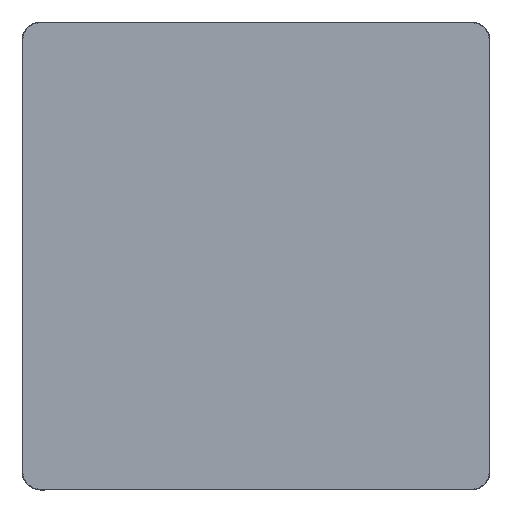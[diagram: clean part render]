
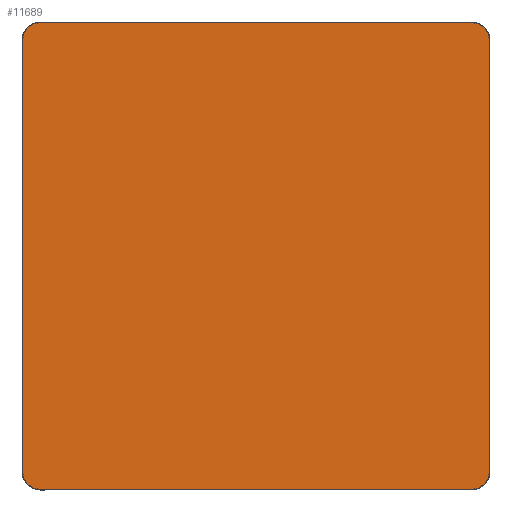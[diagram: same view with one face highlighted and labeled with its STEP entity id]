
A CAD part, top view. The second image highlights one B-rep face of the part: STEP entity #11689.
In plain terms, the highlighted planar face has unit normal (0, 0, 1).
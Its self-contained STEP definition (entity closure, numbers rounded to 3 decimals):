
#11614=CARTESIAN_POINT('',(0.,0.,20.));
#11615=DIRECTION('',(1.,0.,0.));
#11616=DIRECTION('',(0.,0.,1.));
#11617=AXIS2_PLACEMENT_3D('',#11614,#11616,#11615);
#11618=PLANE('',#11617);
#11619=CARTESIAN_POINT('',(-415.,-448.5,20.));
#11620=VERTEX_POINT('',#11619);
#11621=CARTESIAN_POINT('',(415.,-448.5,20.));
#11622=VERTEX_POINT('',#11621);
#11623=CARTESIAN_POINT('',(-415.,-448.5,20.));
#11624=DIRECTION('',(1.,0.,0.));
#11625=VECTOR('',#11624,830.);
#11626=LINE('',#11623,#11625);
#11627=EDGE_CURVE('',#11620,#11622,#11626,.T.);
#11628=ORIENTED_EDGE('E105',*,*,#11627,.T.);
#11629=CARTESIAN_POINT('',(448.5,-415.,20.));
#11630=VERTEX_POINT('',#11629);
#11631=CARTESIAN_POINT('',(415.,-415.,20.));
#11632=DIRECTION('',(0.,-1.,0.));
#11633=DIRECTION('',(0.,0.,1.));
#11634=AXIS2_PLACEMENT_3D('',#11631,#11633,#11632);
#11635=CIRCLE('',#11634,33.5);
#11636=EDGE_CURVE('',#11622,#11630,#11635,.T.);
#11637=ORIENTED_EDGE('E107',*,*,#11636,.T.);
#11638=CARTESIAN_POINT('',(448.5,415.,20.));
#11639=VERTEX_POINT('',#11638);
#11640=CARTESIAN_POINT('',(448.5,-415.,20.));
#11641=DIRECTION('',(0.,1.,0.));
#11642=VECTOR('',#11641,830.);
#11643=LINE('',#11640,#11642);
#11644=EDGE_CURVE('',#11630,#11639,#11643,.T.);
#11645=ORIENTED_EDGE('E109',*,*,#11644,.T.);
#11646=CARTESIAN_POINT('',(415.,448.5,20.));
#11647=VERTEX_POINT('',#11646);
#11648=CARTESIAN_POINT('',(415.,415.,20.));
#11649=DIRECTION('',(1.,0.,0.));
#11650=DIRECTION('',(0.,0.,1.));
#11651=AXIS2_PLACEMENT_3D('',#11648,#11650,#11649);
#11652=CIRCLE('',#11651,33.5);
#11653=EDGE_CURVE('',#11639,#11647,#11652,.T.);
#11654=ORIENTED_EDGE('E111',*,*,#11653,.T.);
#11655=CARTESIAN_POINT('',(-415.,448.5,20.));
#11656=VERTEX_POINT('',#11655);
#11657=CARTESIAN_POINT('',(415.,448.5,20.));
#11658=DIRECTION('',(-1.,0.,0.));
#11659=VECTOR('',#11658,830.);
#11660=LINE('',#11657,#11659);
#11661=EDGE_CURVE('',#11647,#11656,#11660,.T.);
#11662=ORIENTED_EDGE('E113',*,*,#11661,.T.);
#11663=CARTESIAN_POINT('',(-448.5,415.,20.));
#11664=VERTEX_POINT('',#11663);
#11665=CARTESIAN_POINT('',(-415.,415.,20.));
#11666=DIRECTION('',(0.,1.,0.));
#11667=DIRECTION('',(0.,0.,1.));
#11668=AXIS2_PLACEMENT_3D('',#11665,#11667,#11666);
#11669=CIRCLE('',#11668,33.5);
#11670=EDGE_CURVE('',#11656,#11664,#11669,.T.);
#11671=ORIENTED_EDGE('E115',*,*,#11670,.T.);
#11672=CARTESIAN_POINT('',(-448.5,-415.,20.));
#11673=VERTEX_POINT('',#11672);
#11674=CARTESIAN_POINT('',(-448.5,415.,20.));
#11675=DIRECTION('',(0.,-1.,0.));
#11676=VECTOR('',#11675,830.);
#11677=LINE('',#11674,#11676);
#11678=EDGE_CURVE('',#11664,#11673,#11677,.T.);
#11679=ORIENTED_EDGE('E117',*,*,#11678,.T.);
#11680=CARTESIAN_POINT('',(-415.,-415.,20.));
#11681=DIRECTION('',(-1.,0.,0.));
#11682=DIRECTION('',(-0.,0.,1.));
#11683=AXIS2_PLACEMENT_3D('',#11680,#11682,#11681);
#11684=CIRCLE('',#11683,33.5);
#11685=EDGE_CURVE('',#11673,#11620,#11684,.T.);
#11686=ORIENTED_EDGE('E119',*,*,#11685,.T.);
#11687=EDGE_LOOP('',(#11628,#11637,#11645,#11654,#11662,#11671,#11679,#11686));
#11688=FACE_OUTER_BOUND('',#11687,.T.);
#11689=ADVANCED_FACE('F2',(#11688),#11618,.T.);
